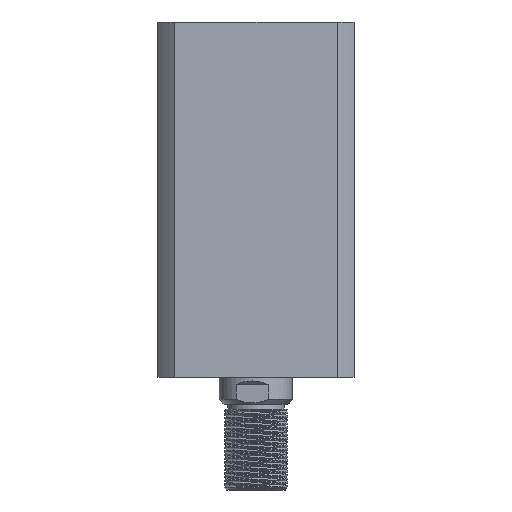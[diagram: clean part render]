
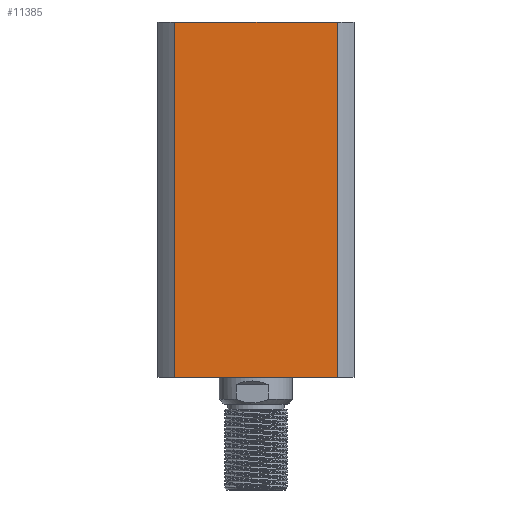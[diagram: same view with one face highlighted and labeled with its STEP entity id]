
A CAD part, left-side view. The second image highlights one B-rep face of the part: STEP entity #11385.
In plain terms, the highlighted planar face has unit normal (-1, 0, 0).
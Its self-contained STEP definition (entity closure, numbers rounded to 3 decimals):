
#64 = EDGE_CURVE ( 'NONE', #7318, #8944, #15764, .T. ) ;
#152 = VERTEX_POINT ( 'NONE', #10713 ) ;
#390 = CARTESIAN_POINT ( 'NONE',  ( -40., 33.226, -72.5 ) ) ;
#1362 = CARTESIAN_POINT ( 'NONE',  ( -40., -33.226, 72.5 ) ) ;
#2547 = CARTESIAN_POINT ( 'NONE',  ( -40., 33.226, 72.5 ) ) ;
#2637 = ORIENTED_EDGE ( 'NONE', *, *, #9990, .F. ) ;
#3192 = EDGE_CURVE ( 'NONE', #8944, #9065, #13311, .T. ) ;
#3201 = ORIENTED_EDGE ( 'NONE', *, *, #64, .T. ) ;
#4362 = EDGE_CURVE ( 'NONE', #7318, #152, #5640, .T. ) ;
#5185 = VECTOR ( 'NONE', #12990, 1000. ) ;
#5640 = LINE ( 'NONE', #8808, #5185 ) ;
#5868 = DIRECTION ( 'NONE',  ( 1., 0., 0. ) ) ;
#6187 = LINE ( 'NONE', #1362, #14855 ) ;
#7318 = VERTEX_POINT ( 'NONE', #2547 ) ;
#8808 = CARTESIAN_POINT ( 'NONE',  ( -40., 33.226, 72.5 ) ) ;
#8944 = VERTEX_POINT ( 'NONE', #390 ) ;
#9065 = VERTEX_POINT ( 'NONE', #15547 ) ;
#9287 = CARTESIAN_POINT ( 'NONE',  ( -40., 33.226, -72.5 ) ) ;
#9982 = PLANE ( 'NONE',  #12760 ) ;
#9990 = EDGE_CURVE ( 'NONE', #152, #9065, #6187, .T. ) ;
#9993 = FACE_OUTER_BOUND ( 'NONE', #15864, .T. ) ;
#10028 = CARTESIAN_POINT ( 'NONE',  ( -40., 33.226, 72.5 ) ) ;
#10151 = ORIENTED_EDGE ( 'NONE', *, *, #3192, .T. ) ;
#10344 = DIRECTION ( 'NONE',  ( 0., 0., -1. ) ) ;
#10415 = DIRECTION ( 'NONE',  ( 0., -1., 0. ) ) ;
#10713 = CARTESIAN_POINT ( 'NONE',  ( -40., -33.226, 72.5 ) ) ;
#11385 = ADVANCED_FACE ( 'NONE', ( #9993 ), #9982, .F. ) ;
#12012 = VECTOR ( 'NONE', #10415, 1000. ) ;
#12760 = AXIS2_PLACEMENT_3D ( 'NONE', #10028, #5868, #15591 ) ;
#12990 = DIRECTION ( 'NONE',  ( 0., -1., 0. ) ) ;
#13138 = ORIENTED_EDGE ( 'NONE', *, *, #4362, .F. ) ;
#13311 = LINE ( 'NONE', #9287, #12012 ) ;
#14855 = VECTOR ( 'NONE', #17929, 1000. ) ;
#15547 = CARTESIAN_POINT ( 'NONE',  ( -40., -33.226, -72.5 ) ) ;
#15591 = DIRECTION ( 'NONE',  ( 0., 1., 0. ) ) ;
#15764 = LINE ( 'NONE', #16016, #17246 ) ;
#15864 = EDGE_LOOP ( 'NONE', ( #10151, #2637, #13138, #3201 ) ) ;
#16016 = CARTESIAN_POINT ( 'NONE',  ( -40., 33.226, 72.5 ) ) ;
#17246 = VECTOR ( 'NONE', #10344, 1000. ) ;
#17929 = DIRECTION ( 'NONE',  ( 0., 0., -1. ) ) ;
